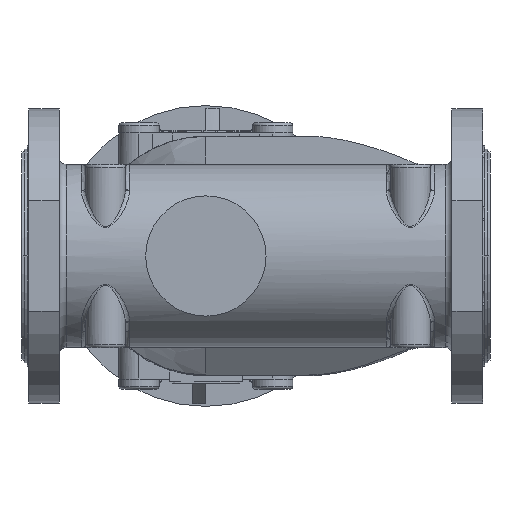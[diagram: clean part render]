
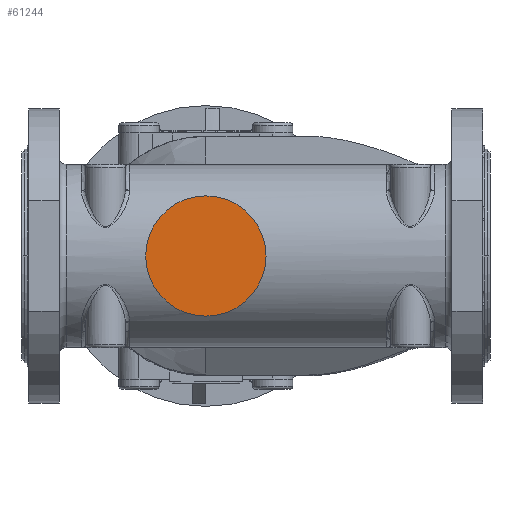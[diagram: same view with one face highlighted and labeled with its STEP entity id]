
A CAD part, front view. The second image highlights one B-rep face of the part: STEP entity #61244.
In plain terms, the highlighted planar face has unit normal (0, -1, 0).
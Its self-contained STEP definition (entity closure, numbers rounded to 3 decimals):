
#17693=CARTESIAN_POINT('',(0.,-100.,0.));
#17694=DIRECTION('',(0.,1.,0.));
#17695=DIRECTION('',(-1.,0.,0.));
#17696=AXIS2_PLACEMENT_3D('',#17693,#17694,#17695);
#17698=CARTESIAN_POINT('',(0.,-100.,0.));
#17699=DIRECTION('',(0.,-1.,0.));
#17700=DIRECTION('',(-1.,0.,0.));
#17701=AXIS2_PLACEMENT_3D('',#17698,#17699,#17700);
#35594=CARTESIAN_POINT('',(-45.,-100.,0.));
#35596=VERTEX_POINT('',#35594);
#35602=CARTESIAN_POINT('',(45.,-100.,0.));
#35604=VERTEX_POINT('',#35602);
#61235=CARTESIAN_POINT('',(0.,-100.,0.));
#61236=DIRECTION('',(0.,-1.,0.));
#61237=DIRECTION('',(-1.,0.,0.));
#61238=AXIS2_PLACEMENT_3D('',#61235,#61236,#61237);
#61239=PLANE('',#61238);
#61240=ORIENTED_EDGE('',*,*,#61230,.T.);
#61241=ORIENTED_EDGE('',*,*,#61214,.F.);
#61242=EDGE_LOOP('',(#61240,#61241));
#61243=FACE_OUTER_BOUND('',#61242,.F.);
#61244=ADVANCED_FACE('',(#61243),#61239,.T.);
#17697=CIRCLE('',#17696,45.);
#17702=CIRCLE('',#17701,45.);
#61214=EDGE_CURVE('',#35596,#35604,#17702,.T.);
#61230=EDGE_CURVE('',#35596,#35604,#17697,.T.);
